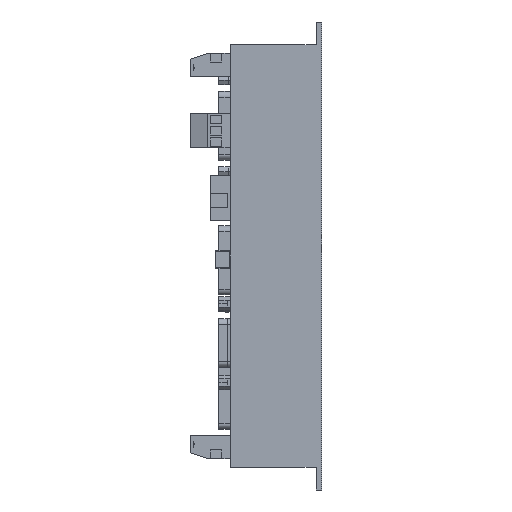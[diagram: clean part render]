
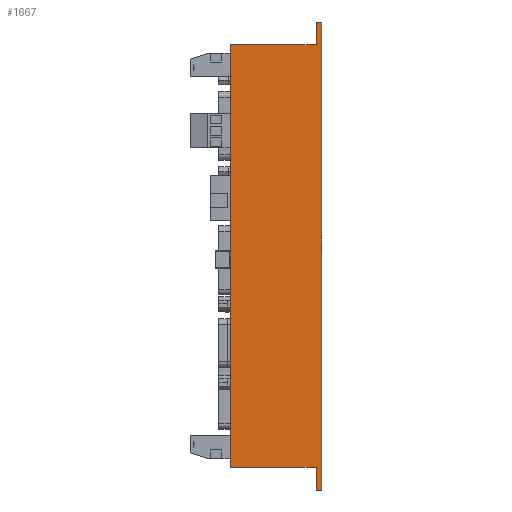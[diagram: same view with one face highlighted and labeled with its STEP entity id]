
A CAD part, left-side view. The second image highlights one B-rep face of the part: STEP entity #1667.
In plain terms, the highlighted planar face has unit normal (-1, 0, 0).
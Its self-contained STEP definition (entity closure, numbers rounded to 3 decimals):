
#1667 = ADVANCED_FACE ( 'NONE', ( #29000 ), #74940, .F. ) ;
#1804 = LINE ( 'NONE', #51967, #64174 ) ;
#1836 = VERTEX_POINT ( 'NONE', #52187 ) ;
#2264 = VERTEX_POINT ( 'NONE', #75923 ) ;
#3600 = CARTESIAN_POINT ( 'NONE',  ( 0., 0., -87.797 ) ) ;
#3810 = DIRECTION ( 'NONE',  ( 0., -1., 0. ) ) ;
#6882 = CARTESIAN_POINT ( 'NONE',  ( 0., 2., 75.703 ) ) ;
#8055 = DIRECTION ( 'NONE',  ( 0., 0., 1. ) ) ;
#9286 = CARTESIAN_POINT ( 'NONE',  ( 0., 2., -87.797 ) ) ;
#13580 = VERTEX_POINT ( 'NONE', #9286 ) ;
#13851 = CARTESIAN_POINT ( 'NONE',  ( 0., 32., -79.797 ) ) ;
#14708 = CARTESIAN_POINT ( 'NONE',  ( 0., 0., 0. ) ) ;
#15848 = DIRECTION ( 'NONE',  ( 0., 0., 1. ) ) ;
#16414 = EDGE_LOOP ( 'NONE', ( #21042, #28593, #47874, #22369, #75146, #26792, #76796, #33813 ) ) ;
#16612 = LINE ( 'NONE', #6882, #32652 ) ;
#18038 = VECTOR ( 'NONE', #45787, 1000. ) ;
#18920 = CARTESIAN_POINT ( 'NONE',  ( 0., 0., 75.703 ) ) ;
#19641 = VERTEX_POINT ( 'NONE', #74902 ) ;
#20580 = VECTOR ( 'NONE', #3810, 1000. ) ;
#21042 = ORIENTED_EDGE ( 'NONE', *, *, #64640, .F. ) ;
#21273 = VECTOR ( 'NONE', #8055, 1000. ) ;
#21314 = CARTESIAN_POINT ( 'NONE',  ( 0., 2., -87.797 ) ) ;
#22369 = ORIENTED_EDGE ( 'NONE', *, *, #38415, .F. ) ;
#24518 = CARTESIAN_POINT ( 'NONE',  ( 0., 32., 67.703 ) ) ;
#26115 = EDGE_CURVE ( 'NONE', #37667, #41643, #66871, .T. ) ;
#26792 = ORIENTED_EDGE ( 'NONE', *, *, #52107, .F. ) ;
#28593 = ORIENTED_EDGE ( 'NONE', *, *, #50024, .F. ) ;
#28814 = VECTOR ( 'NONE', #66978, 1000. ) ;
#29000 = FACE_OUTER_BOUND ( 'NONE', #16414, .T. ) ;
#32652 = VECTOR ( 'NONE', #49092, 1000. ) ;
#32916 = DIRECTION ( 'NONE',  ( 0., 0., -1. ) ) ;
#33813 = ORIENTED_EDGE ( 'NONE', *, *, #55341, .F. ) ;
#34088 = LINE ( 'NONE', #21314, #66208 ) ;
#34554 = EDGE_CURVE ( 'NONE', #54371, #1836, #53047, .T. ) ;
#35425 = LINE ( 'NONE', #13851, #21273 ) ;
#37667 = VERTEX_POINT ( 'NONE', #24518 ) ;
#38415 = EDGE_CURVE ( 'NONE', #1836, #37667, #35425, .T. ) ;
#40236 = CARTESIAN_POINT ( 'NONE',  ( 0., 32., 67.703 ) ) ;
#41643 = VERTEX_POINT ( 'NONE', #61209 ) ;
#45787 = DIRECTION ( 'NONE',  ( 0., 1., 0. ) ) ;
#46958 = DIRECTION ( 'NONE',  ( 0., 1., 0. ) ) ;
#47874 = ORIENTED_EDGE ( 'NONE', *, *, #26115, .F. ) ;
#49092 = DIRECTION ( 'NONE',  ( 0., -1., 0. ) ) ;
#49332 = CARTESIAN_POINT ( 'NONE',  ( 0., 2., -79.797 ) ) ;
#50024 = EDGE_CURVE ( 'NONE', #41643, #2264, #1804, .T. ) ;
#51142 = VECTOR ( 'NONE', #46958, 1000. ) ;
#51967 = CARTESIAN_POINT ( 'NONE',  ( 0., 2., 67.703 ) ) ;
#52107 = EDGE_CURVE ( 'NONE', #13580, #54371, #34088, .T. ) ;
#52136 = EDGE_CURVE ( 'NONE', #19641, #13580, #62406, .T. ) ;
#52187 = CARTESIAN_POINT ( 'NONE',  ( 0., 32., -79.797 ) ) ;
#53047 = LINE ( 'NONE', #74736, #51142 ) ;
#54371 = VERTEX_POINT ( 'NONE', #49332 ) ;
#55341 = EDGE_CURVE ( 'NONE', #71220, #19641, #77102, .T. ) ;
#56468 = CARTESIAN_POINT ( 'NONE',  ( 0., 0., 75.703 ) ) ;
#57461 = DIRECTION ( 'NONE',  ( 0., 0., 1. ) ) ;
#58710 = AXIS2_PLACEMENT_3D ( 'NONE', #14708, #69094, #32916 ) ;
#61209 = CARTESIAN_POINT ( 'NONE',  ( 0., 2., 67.703 ) ) ;
#62406 = LINE ( 'NONE', #3600, #18038 ) ;
#64174 = VECTOR ( 'NONE', #15848, 1000. ) ;
#64640 = EDGE_CURVE ( 'NONE', #2264, #71220, #16612, .T. ) ;
#66208 = VECTOR ( 'NONE', #57461, 1000. ) ;
#66871 = LINE ( 'NONE', #40236, #20580 ) ;
#66978 = DIRECTION ( 'NONE',  ( 0., 0., -1. ) ) ;
#69094 = DIRECTION ( 'NONE',  ( 1., 0., 0. ) ) ;
#71220 = VERTEX_POINT ( 'NONE', #56468 ) ;
#74736 = CARTESIAN_POINT ( 'NONE',  ( 0., 2., -79.797 ) ) ;
#74902 = CARTESIAN_POINT ( 'NONE',  ( 0., 0., -87.797 ) ) ;
#74940 = PLANE ( 'NONE',  #58710 ) ;
#75146 = ORIENTED_EDGE ( 'NONE', *, *, #34554, .F. ) ;
#75923 = CARTESIAN_POINT ( 'NONE',  ( 0., 2., 75.703 ) ) ;
#76796 = ORIENTED_EDGE ( 'NONE', *, *, #52136, .F. ) ;
#77102 = LINE ( 'NONE', #18920, #28814 ) ;
